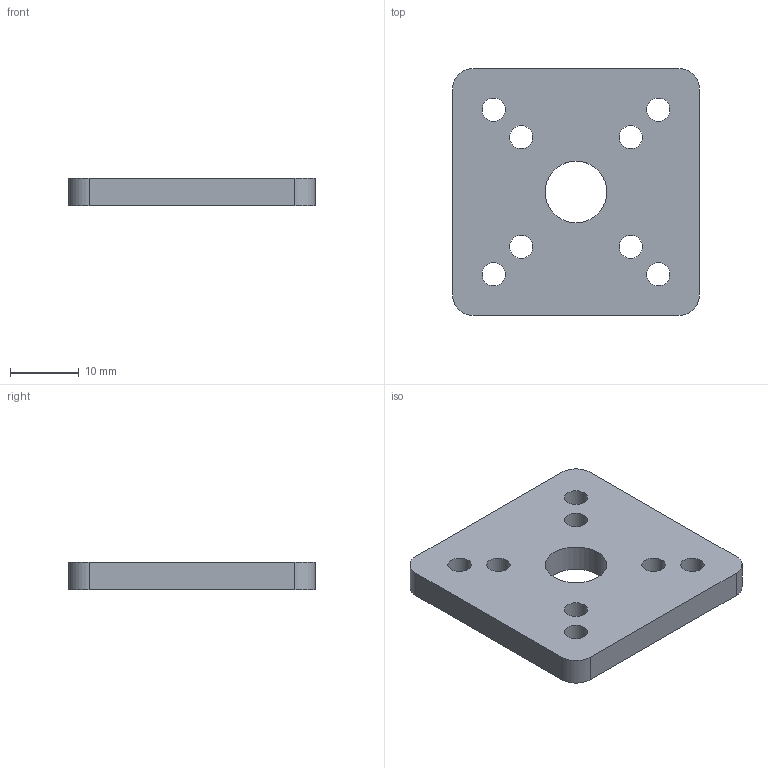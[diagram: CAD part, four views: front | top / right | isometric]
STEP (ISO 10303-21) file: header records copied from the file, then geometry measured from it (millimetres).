
FILE_DESCRIPTION(('Open CASCADE Model'),'2;1');
FILE_NAME('Open CASCADE Shape Model','2026-09-11T00:16:40',('Author'),( 'Open CASCADE'),'Open CASCADE STEP processor 7.9','Open CASCADE 7.9' ,'Unknown');
FILE_SCHEMA(('AUTOMOTIVE_DESIGN { 1 0 10303 214 1 1 1 1 }'));
Length unit declared in the file: millimetre
Products named in the file (1): Open CASCADE STEP translator 7.9 12
Bounding box: 36 x 36 x 4 mm (x, y, z)
Volume: 4608.1 mm3; surface area: 3314.3 mm2
Topology: 1 solids, 1 shells, 19 faces, 51 edges, 34 vertices
Faces by surface type: cylinder 13, plane 6
Full cylindrical faces by diameter (mm): 3.4 x8, 9 x1
Entity records: 1386 total; most frequent: CARTESIAN_POINT 339, DIRECTION 197, ORIENTED_EDGE 102, PCURVE 102, DEFINITIONAL_REPRESENTATION 102, LINE 101, VECTOR 101, EDGE_CURVE 51
